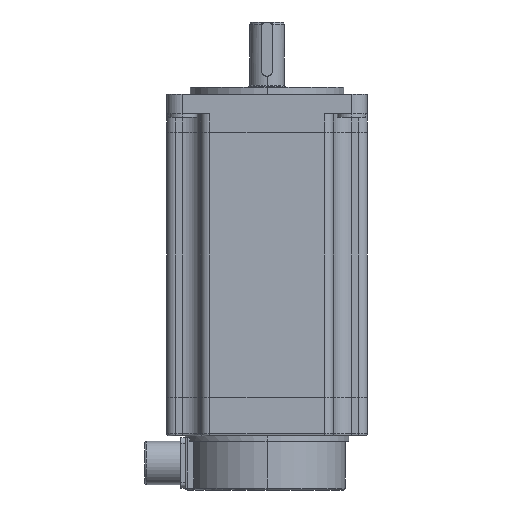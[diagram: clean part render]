
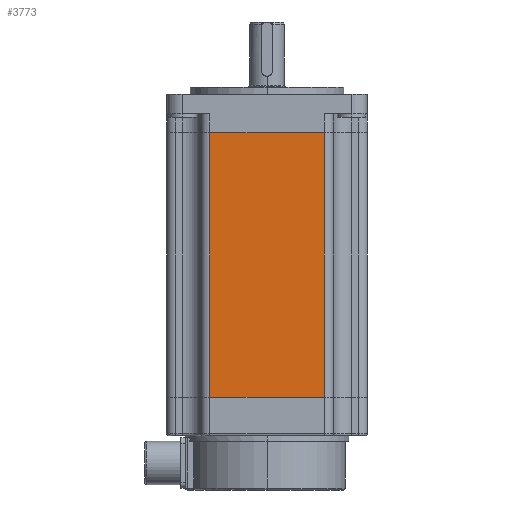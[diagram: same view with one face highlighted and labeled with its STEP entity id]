
A CAD part, left-side view. The second image highlights one B-rep face of the part: STEP entity #3773.
In plain terms, the highlighted planar face has unit normal (-1, 0, 0).
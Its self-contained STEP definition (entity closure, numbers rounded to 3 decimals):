
#305 = VERTEX_POINT ( 'NONE', #311 ) ;
#311 = CARTESIAN_POINT ( 'NONE',  ( -55.5, 31.65, -10.501 ) ) ;
#476 = EDGE_CURVE ( 'NONE', #305, #3056, #6271, .T. ) ;
#1179 = EDGE_CURVE ( 'NONE', #10711, #305, #6728, .T. ) ;
#2286 = DIRECTION ( 'NONE',  ( 0., -1., 0. ) ) ;
#2871 = AXIS2_PLACEMENT_3D ( 'NONE', #8454, #4345, #11551 ) ;
#3056 = VERTEX_POINT ( 'NONE', #5532 ) ;
#3493 = VECTOR ( 'NONE', #2286, 1000. ) ;
#3773 = ADVANCED_FACE ( 'NONE', ( #8025 ), #11465, .F. ) ;
#4239 = DIRECTION ( 'NONE',  ( 0., 0., 1. ) ) ;
#4345 = DIRECTION ( 'NONE',  ( 1., 0., 0. ) ) ;
#4493 = VERTEX_POINT ( 'NONE', #7377 ) ;
#5389 = ORIENTED_EDGE ( 'NONE', *, *, #476, .F. ) ;
#5532 = CARTESIAN_POINT ( 'NONE',  ( -55.5, -31.65, -10.501 ) ) ;
#5762 = DIRECTION ( 'NONE',  ( 0., 0., 1. ) ) ;
#6271 = LINE ( 'NONE', #7264, #3493 ) ;
#6285 = LINE ( 'NONE', #6600, #11416 ) ;
#6404 = VECTOR ( 'NONE', #5762, 1000. ) ;
#6600 = CARTESIAN_POINT ( 'NONE',  ( -55.5, -46.9, -157.099 ) ) ;
#6656 = EDGE_CURVE ( 'NONE', #4493, #3056, #8435, .T. ) ;
#6728 = LINE ( 'NONE', #12931, #6404 ) ;
#7218 = ORIENTED_EDGE ( 'NONE', *, *, #1179, .F. ) ;
#7264 = CARTESIAN_POINT ( 'NONE',  ( -55.5, -46.9, -10.501 ) ) ;
#7309 = ORIENTED_EDGE ( 'NONE', *, *, #6656, .T. ) ;
#7377 = CARTESIAN_POINT ( 'NONE',  ( -55.5, -31.65, -157.099 ) ) ;
#8025 = FACE_OUTER_BOUND ( 'NONE', #12116, .T. ) ;
#8435 = LINE ( 'NONE', #11439, #10197 ) ;
#8454 = CARTESIAN_POINT ( 'NONE',  ( -55.5, -46.9, 10.7 ) ) ;
#9149 = CARTESIAN_POINT ( 'NONE',  ( -55.5, 31.65, -157.099 ) ) ;
#10197 = VECTOR ( 'NONE', #4239, 1000. ) ;
#10265 = EDGE_CURVE ( 'NONE', #4493, #10711, #6285, .T. ) ;
#10711 = VERTEX_POINT ( 'NONE', #9149 ) ;
#11416 = VECTOR ( 'NONE', #12754, 1000. ) ;
#11439 = CARTESIAN_POINT ( 'NONE',  ( -55.5, -31.65, -178.3 ) ) ;
#11465 = PLANE ( 'NONE',  #2871 ) ;
#11551 = DIRECTION ( 'NONE',  ( 0., 0., -1. ) ) ;
#12116 = EDGE_LOOP ( 'NONE', ( #13112, #7309, #5389, #7218 ) ) ;
#12754 = DIRECTION ( 'NONE',  ( 0., 1., 0. ) ) ;
#12931 = CARTESIAN_POINT ( 'NONE',  ( -55.5, 31.65, -178.3 ) ) ;
#13112 = ORIENTED_EDGE ( 'NONE', *, *, #10265, .F. ) ;
